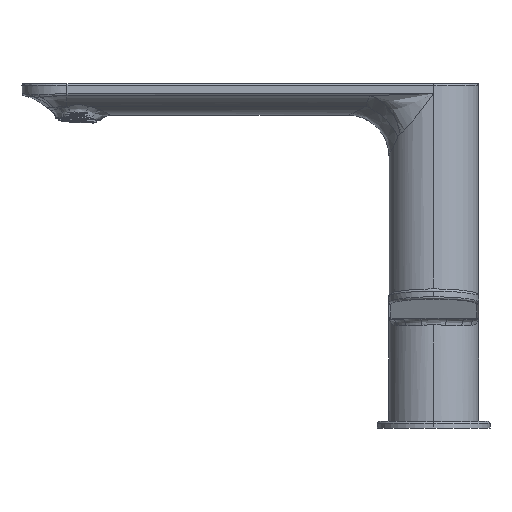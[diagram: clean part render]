
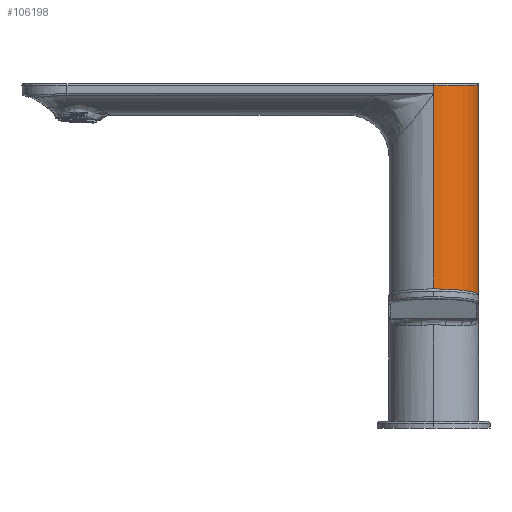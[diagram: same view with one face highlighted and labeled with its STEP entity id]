
A CAD part, left-side view. The second image highlights one B-rep face of the part: STEP entity #106198.
In plain terms, the highlighted cylindrical face has radius 20 mm (diameter 40 mm), a partial arc.
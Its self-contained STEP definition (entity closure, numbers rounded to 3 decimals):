
#25725 = LINE ( 'NONE', #119440, #88088 ) ;
#32323 = CARTESIAN_POINT ( 'NONE',  ( 0., 0., 139.5 ) ) ;
#36755 = CARTESIAN_POINT ( 'NONE',  ( 20., 0., 140. ) ) ;
#38278 = DIRECTION ( 'NONE',  ( 0., 0., -1. ) ) ;
#38365 = LINE ( 'NONE', #145229, #168409 ) ;
#39296 = VERTEX_POINT ( 'NONE', #141009 ) ;
#40545 = ORIENTED_EDGE ( 'NONE', *, *, #62243, .T. ) ;
#50203 = ORIENTED_EDGE ( 'NONE', *, *, #157816, .T. ) ;
#54807 = CYLINDRICAL_SURFACE ( 'NONE', #74488, 20. ) ;
#56457 = AXIS2_PLACEMENT_3D ( 'NONE', #32323, #150628, #58567 ) ;
#58567 = DIRECTION ( 'NONE',  ( -1., 0., 0. ) ) ;
#62243 = EDGE_CURVE ( 'NONE', #66583, #39296, #171174, .T. ) ;
#62289 = DIRECTION ( 'NONE',  ( 0., 0., -1. ) ) ;
#63156 = EDGE_CURVE ( 'NONE', #152963, #151448, #38365, .T. ) ;
#65768 = ORIENTED_EDGE ( 'NONE', *, *, #63156, .F. ) ;
#66583 = VERTEX_POINT ( 'NONE', #67564 ) ;
#66584 = VERTEX_POINT ( 'NONE', #111380 ) ;
#67564 = CARTESIAN_POINT ( 'NONE',  ( 20., 0., 139.5 ) ) ;
#68308 = VECTOR ( 'NONE', #38278, 1000. ) ;
#74488 = AXIS2_PLACEMENT_3D ( 'NONE', #96858, #108295, #109136 ) ;
#79416 = LINE ( 'NONE', #131974, #68308 ) ;
#82848 = DIRECTION ( 'NONE',  ( 0., 0., 1. ) ) ;
#83015 = CIRCLE ( 'NONE', #152999, 20. ) ;
#83540 = ORIENTED_EDGE ( 'NONE', *, *, #113260, .T. ) ;
#84089 = EDGE_LOOP ( 'NONE', ( #65768, #115180, #40545, #92536, #83540, #50203 ) ) ;
#88088 = VECTOR ( 'NONE', #143988, 1000. ) ;
#88362 = EDGE_CURVE ( 'NONE', #152963, #66583, #149488, .T. ) ;
#90305 = CARTESIAN_POINT ( 'NONE',  ( 20., 0., -10. ) ) ;
#92536 = ORIENTED_EDGE ( 'NONE', *, *, #114271, .T. ) ;
#94373 = DIRECTION ( 'NONE',  ( -1., 0., 0. ) ) ;
#96858 = CARTESIAN_POINT ( 'NONE',  ( 0., 0., 140. ) ) ;
#106198 = ADVANCED_FACE ( 'NONE', ( #134533 ), #54807, .T. ) ;
#108295 = DIRECTION ( 'NONE',  ( 0., 0., -1. ) ) ;
#109136 = DIRECTION ( 'NONE',  ( -1., 0., 0. ) ) ;
#111379 = VECTOR ( 'NONE', #82848, 1000. ) ;
#111380 = CARTESIAN_POINT ( 'NONE',  ( -20., 0., 135.717 ) ) ;
#113260 = EDGE_CURVE ( 'NONE', #66584, #165555, #79416, .T. ) ;
#114271 = EDGE_CURVE ( 'NONE', #39296, #66584, #25725, .T. ) ;
#115180 = ORIENTED_EDGE ( 'NONE', *, *, #88362, .T. ) ;
#119440 = CARTESIAN_POINT ( 'NONE',  ( -20., 0., 140. ) ) ;
#131974 = CARTESIAN_POINT ( 'NONE',  ( -20., 0., 140. ) ) ;
#132934 = DIRECTION ( 'NONE',  ( 0., 0., 1. ) ) ;
#134533 = FACE_OUTER_BOUND ( 'NONE', #84089, .T. ) ;
#137069 = CARTESIAN_POINT ( 'NONE',  ( 20., 0., 135.717 ) ) ;
#137673 = CARTESIAN_POINT ( 'NONE',  ( -20., 0., -10. ) ) ;
#141009 = CARTESIAN_POINT ( 'NONE',  ( -20., 0., 139.5 ) ) ;
#143988 = DIRECTION ( 'NONE',  ( 0., 0., -1. ) ) ;
#145229 = CARTESIAN_POINT ( 'NONE',  ( 20., 0., 140. ) ) ;
#149488 = LINE ( 'NONE', #36755, #111379 ) ;
#150628 = DIRECTION ( 'NONE',  ( 0., 0., -1. ) ) ;
#151448 = VERTEX_POINT ( 'NONE', #90305 ) ;
#152963 = VERTEX_POINT ( 'NONE', #137069 ) ;
#152999 = AXIS2_PLACEMENT_3D ( 'NONE', #159238, #132934, #94373 ) ;
#157816 = EDGE_CURVE ( 'NONE', #165555, #151448, #83015, .T. ) ;
#159238 = CARTESIAN_POINT ( 'NONE',  ( 0., 0., -10. ) ) ;
#165555 = VERTEX_POINT ( 'NONE', #137673 ) ;
#168409 = VECTOR ( 'NONE', #62289, 1000. ) ;
#171174 = CIRCLE ( 'NONE', #56457, 20. ) ;
